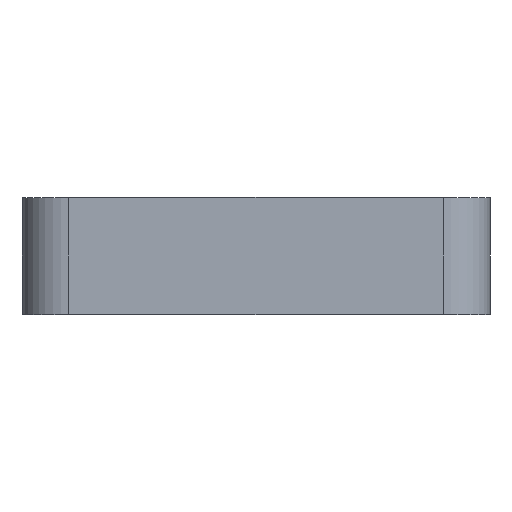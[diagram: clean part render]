
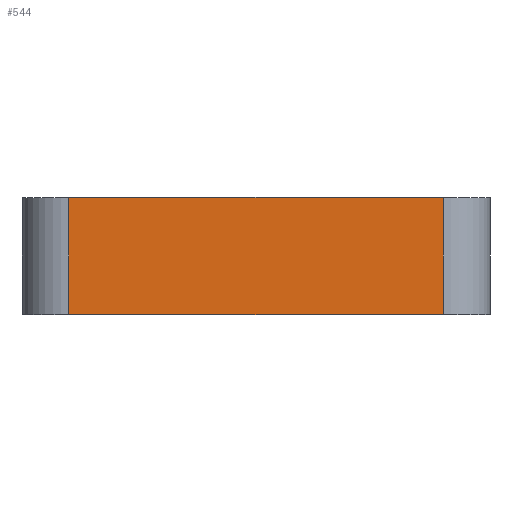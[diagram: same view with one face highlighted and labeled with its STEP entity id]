
A CAD part, left-side view. The second image highlights one B-rep face of the part: STEP entity #544.
In plain terms, the highlighted planar face has unit normal (-1, 0, 0).
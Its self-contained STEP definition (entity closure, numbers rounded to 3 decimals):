
#486=CARTESIAN_POINT('',(-12.936,-14.33,5.0));
#487=VERTEX_POINT('',#486);
#495=CARTESIAN_POINT('',(-12.936,-14.33,0.0));
#496=VERTEX_POINT('',#495);
#497=CARTESIAN_POINT('',(-12.936,-14.33,0.0));
#498=DIRECTION('',(0.0,0.0,1.0));
#499=VECTOR('',#498,5.0);
#500=LINE('',#497,#499);
#501=EDGE_CURVE('',#496,#487,#500,.T.);
#514=CARTESIAN_POINT('',(-12.936,-14.33,0.0));
#515=DIRECTION('',(-1.0,0.0,0.0));
#516=DIRECTION('',(0.0,0.0,1.0));
#517=AXIS2_PLACEMENT_3D('',#514,#515,#516);
#518=PLANE('',#517);
#519=CARTESIAN_POINT('',(-12.936,1.67,5.0));
#520=VERTEX_POINT('',#519);
#521=CARTESIAN_POINT('',(-12.936,-14.33,5.0));
#522=DIRECTION('',(0.0,1.0,0.0));
#523=VECTOR('',#522,16.);
#524=LINE('',#521,#523);
#525=EDGE_CURVE('',#487,#520,#524,.T.);
#526=ORIENTED_EDGE('',*,*,#525,.T.);
#527=CARTESIAN_POINT('',(-12.936,1.67,0.0));
#528=VERTEX_POINT('',#527);
#529=CARTESIAN_POINT('',(-12.936,1.67,0.0));
#530=DIRECTION('',(0.0,0.0,1.0));
#531=VECTOR('',#530,5.0);
#532=LINE('',#529,#531);
#533=EDGE_CURVE('',#528,#520,#532,.T.);
#534=ORIENTED_EDGE('',*,*,#533,.F.);
#535=CARTESIAN_POINT('',(-12.936,1.67,0.0));
#536=DIRECTION('',(0.0,-1.0,0.0));
#537=VECTOR('',#536,16.);
#538=LINE('',#535,#537);
#539=EDGE_CURVE('',#528,#496,#538,.T.);
#540=ORIENTED_EDGE('',*,*,#539,.T.);
#541=ORIENTED_EDGE('',*,*,#501,.T.);
#542=EDGE_LOOP('',(#526,#534,#540,#541));
#543=FACE_OUTER_BOUND('',#542,.T.);
#544=ADVANCED_FACE('',(#543),#518,.T.);
